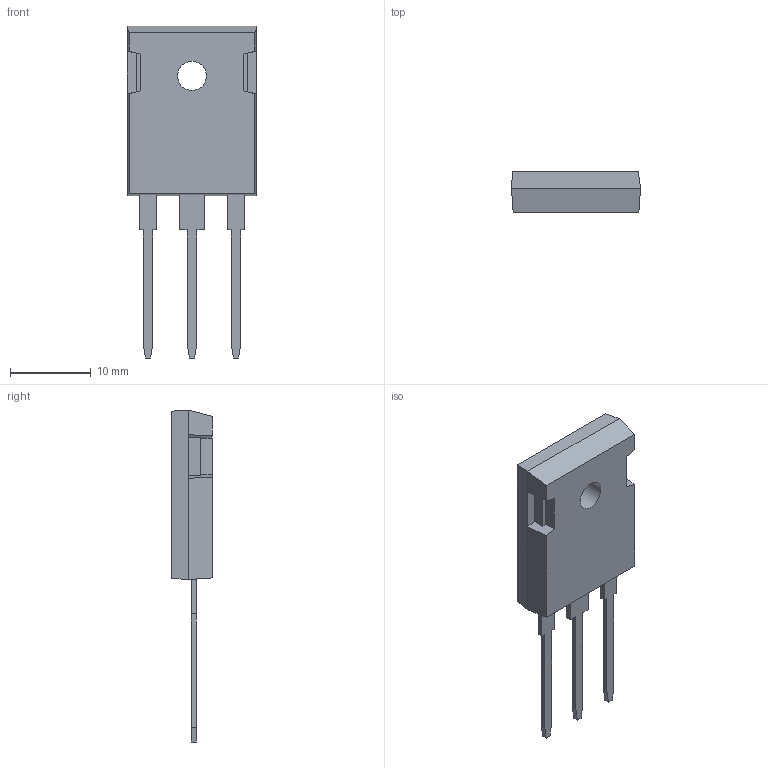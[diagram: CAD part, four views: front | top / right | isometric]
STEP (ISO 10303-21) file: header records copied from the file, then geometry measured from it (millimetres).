
FILE_DESCRIPTION(/* description */ ('Unknown'),/* implementation_level */ '2;1');
FILE_NAME(/* name */ 'TO-247-3L',/* time_stamp */ '2023-09-07T14:25:15+08:00',/* author */ ('Unknown'),/* organization */ ('Unknown'),/* preprocessor_version */ 'ST-DEVELOPER v18.104',/* originating_system */ 'Solid Edge',/* authorisation */ 'Unknown');
FILE_SCHEMA (('AUTOMOTIVE_DESIGN {1 0 10303 214 3 1 1}'));
Length unit declared in the file: millimetre
Products named in the file (1): TO-247-3L-aa
Bounding box: 15.94 x 5.04 x 41.02 mm (x, y, z)
Volume: 1602.4 mm3; surface area: 1332.1 mm2
Topology: 4 solids, 4 shells, 79 faces, 200 edges, 131 vertices
Faces by surface type: plane 77, cylinder 2
Full cylindrical faces by diameter (mm): 3.58 x1, 7.18 x1
Entity records: 2647 total; most frequent: CARTESIAN_POINT 407, ORIENTED_EDGE 394, DIRECTION 361, EDGE_CURVE 197, LINE 193, VECTOR 193, VERTEX_POINT 130, EDGE_LOOP 85
